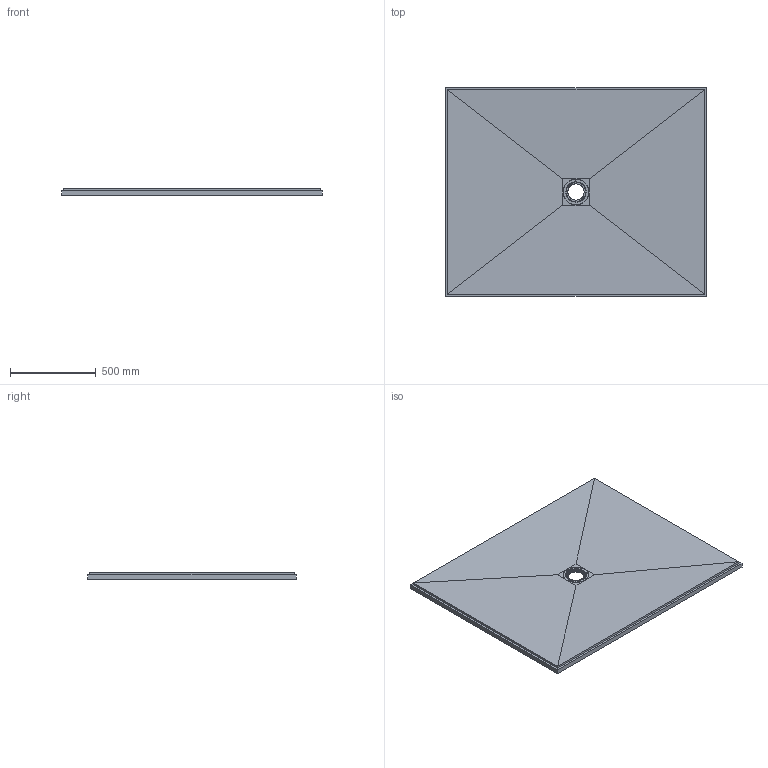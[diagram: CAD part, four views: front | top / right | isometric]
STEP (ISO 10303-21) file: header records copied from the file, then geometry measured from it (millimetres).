
FILE_DESCRIPTION(/* description */ ('Fertigteil'),/* implementation_level */ '2;1');
FILE_NAME(/* name */ 'C:\Users\fuser-vault-job\AppData\Local\Temp\MuM_qrjgqhc4.fp4\D-000000872.iam_.step',/* time_stamp */ '2022-07-14T08:23:34+02:00',/* author */ ('ds'),/* organization */ (''),/* preprocessor_version */ 'ST-DEVELOPER v18.1',/* originating_system */ 'Autodesk Inventor 2020',/* authorisation */ '');
FILE_SCHEMA (('AUTOMOTIVE_DESIGN { 1 0 10303 214 3 1 1 }'));
Products named in the file (3): 073740054; 073740054_1; DD0000003
Assembly tree (2 placements, depth 2):
  073740054
    073740054_1
    DD0000003
Bounding box: 1524 x 1219.2 x 40 mm (x, y, z)
Volume: 61435291.7 mm3; surface area: 3960168 mm2
Topology: 2 solids, 2 shells, 743 faces, 2189 edges, 1474 vertices
Faces by surface type: bspline 372, torus 115, cone 78, cylinder 76, plane 68, sphere 34
Full cylindrical faces by diameter (mm): 6 x3, 151 x1
Entity records: 63140 total; most frequent: CARTESIAN_POINT 44892, ORIENTED_EDGE 4322, DIRECTION 3297, EDGE_CURVE 2161, VERTEX_POINT 1456, AXIS2_PLACEMENT_3D 1338, CIRCLE 812, EDGE_LOOP 803
